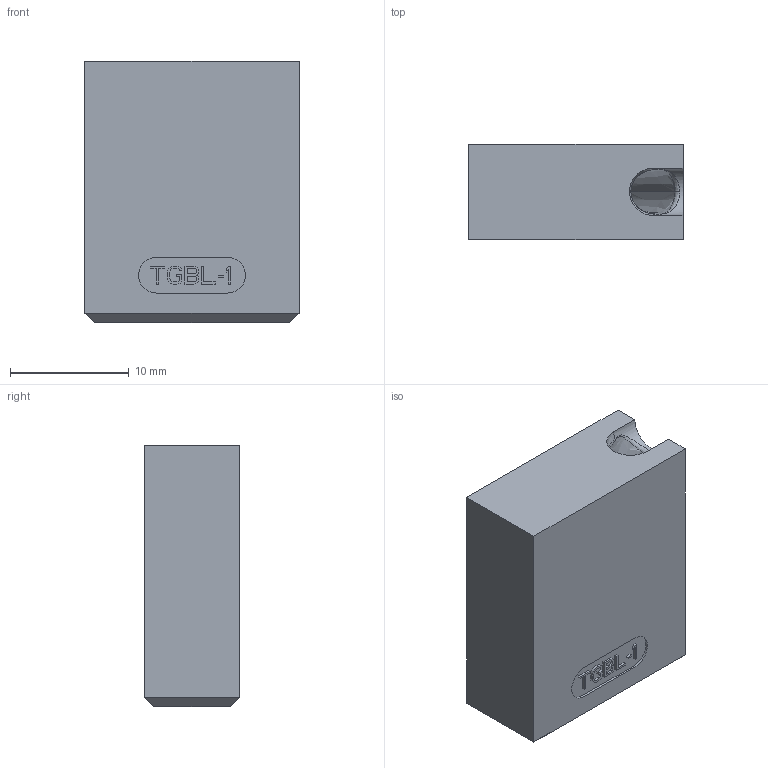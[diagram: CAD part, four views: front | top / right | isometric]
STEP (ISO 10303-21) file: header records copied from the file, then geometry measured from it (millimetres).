
FILE_DESCRIPTION((''),'2;1');
FILE_NAME('TGBL-1_EXPORT','2026-08-12T14:51:45',('gsawatzky'),(''),'CREO PARAMETRIC BY PTC INC, 2021304','CREO PARAMETRIC BY PTC INC, 2021304','');
FILE_SCHEMA(('AUTOMOTIVE_DESIGN { 1 0 10303 214 1 1 1 1 }'));
Length unit declared in the file: millimetre
Products named in the file (1): TGBL-1_EXPORT
Bounding box: 18 x 8 x 22 mm (x, y, z)
Volume: 2874 mm3; surface area: 1839.1 mm2
Topology: 1 solids, 4 shells, 191 faces, 520 edges, 337 vertices
Faces by surface type: plane 151, bspline 14, cylinder 9, sphere 9, cone 4, torus 2, extrusion 2
Entity records: 9292 total; most frequent: CARTESIAN_POINT 2921, ORIENTED_EDGE 1014, DIRECTION 878, PRESENTATION_STYLE_ASSIGNMENT 515, STYLED_ITEM 515, CURVE_STYLE 511, EDGE_CURVE 511, VECTOR 428
